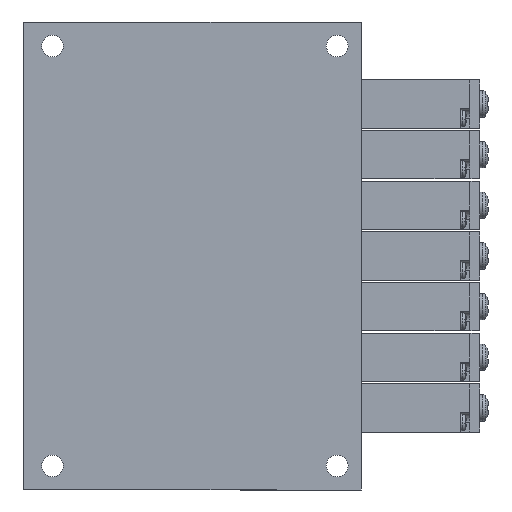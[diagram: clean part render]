
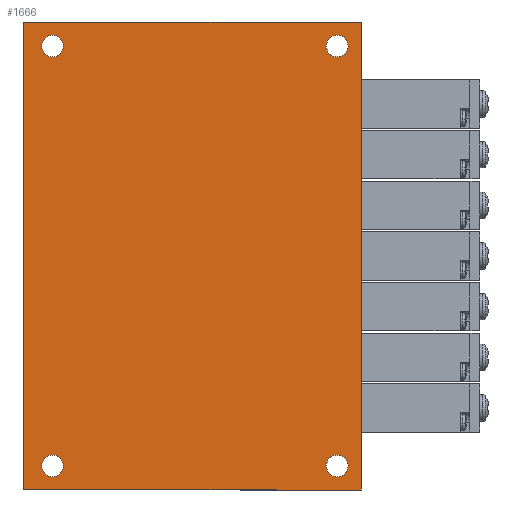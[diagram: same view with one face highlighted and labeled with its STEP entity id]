
A CAD part, front view. The second image highlights one B-rep face of the part: STEP entity #1666.
In plain terms, the highlighted planar face has unit normal (0, -1, 0) as drawn and (0, 0, 1) by its records, which use the part's own axes.
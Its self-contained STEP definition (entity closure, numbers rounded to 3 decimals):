
#1666=ADVANCED_FACE('',(#3573,#3574,#3575,#3576,#3577),#3578,.T.);
#3573=FACE_BOUND('',#5992,.T.);
#3574=FACE_BOUND('',#5993,.T.);
#3575=FACE_BOUND('',#5994,.T.);
#3576=FACE_BOUND('',#5995,.T.);
#3577=FACE_OUTER_BOUND('',#5996,.T.);
#3578=PLANE('',#5997);
#5992=EDGE_LOOP('',(#12302));
#5993=EDGE_LOOP('',(#12303));
#5994=EDGE_LOOP('',(#12304));
#5995=EDGE_LOOP('',(#12305));
#5996=EDGE_LOOP('',(#12306,#12307,#12308,#12309));
#5997=AXIS2_PLACEMENT_3D('',#12310,#12311,#12312);
#12302=ORIENTED_EDGE('',*,*,#17212,.F.);
#12303=ORIENTED_EDGE('',*,*,#17220,.T.);
#12304=ORIENTED_EDGE('',*,*,#17221,.F.);
#12305=ORIENTED_EDGE('',*,*,#17222,.T.);
#12306=ORIENTED_EDGE('',*,*,#17223,.T.);
#12307=ORIENTED_EDGE('',*,*,#17224,.T.);
#12308=ORIENTED_EDGE('',*,*,#17204,.T.);
#12309=ORIENTED_EDGE('',*,*,#17208,.T.);
#12310=CARTESIAN_POINT('',(-48.5,-35.0,25.889));
#12311=DIRECTION('',(0.0,0.0,1.0));
#12312=DIRECTION('',(1.0,0.0,0.0));
#17204=EDGE_CURVE('',#21054,#21052,#21055,.T.);
#17208=EDGE_CURVE('',#21052,#21059,#21061,.T.);
#17212=EDGE_CURVE('',#21068,#21068,#21069,.T.);
#17220=EDGE_CURVE('',#21084,#21084,#21085,.T.);
#17221=EDGE_CURVE('',#21086,#21086,#21087,.T.);
#17222=EDGE_CURVE('',#21088,#21088,#21089,.T.);
#17223=EDGE_CURVE('',#21059,#21090,#21091,.T.);
#17224=EDGE_CURVE('',#21090,#21054,#21092,.T.);
#21052=VERTEX_POINT('',#27504);
#21054=VERTEX_POINT('',#27507);
#21055=LINE('',#27508,#27509);
#21059=VERTEX_POINT('',#27515);
#21061=LINE('',#27518,#27519);
#21068=VERTEX_POINT('',#27526);
#21069=CIRCLE('',#27527,2.25);
#21084=VERTEX_POINT('',#27542);
#21085=CIRCLE('',#27543,2.25);
#21086=VERTEX_POINT('',#27544);
#21087=CIRCLE('',#27545,2.25);
#21088=VERTEX_POINT('',#27546);
#21089=CIRCLE('',#27547,2.25);
#21090=VERTEX_POINT('',#27548);
#21091=LINE('',#27549,#27550);
#21092=LINE('',#27551,#27552);
#27504=CARTESIAN_POINT('',(48.5,35.0,25.889));
#27507=CARTESIAN_POINT('',(48.5,-35.0,25.889));
#27508=CARTESIAN_POINT('',(48.5,-35.0,25.889));
#27509=VECTOR('',#32583,1.0);
#27515=CARTESIAN_POINT('',(-48.5,35.0,25.889));
#27518=CARTESIAN_POINT('',(48.5,35.0,25.889));
#27519=VECTOR('',#32587,1.0);
#27526=CARTESIAN_POINT('',(45.75,30.0,25.889));
#27527=AXIS2_PLACEMENT_3D('',#32597,#32598,#32599);
#27542=CARTESIAN_POINT('',(-45.75,30.0,25.889));
#27543=AXIS2_PLACEMENT_3D('',#32621,#32622,#32623);
#27544=CARTESIAN_POINT('',(45.75,-29.0,25.889));
#27545=AXIS2_PLACEMENT_3D('',#32624,#32625,#32626);
#27546=CARTESIAN_POINT('',(-45.75,-29.0,25.889));
#27547=AXIS2_PLACEMENT_3D('',#32627,#32628,#32629);
#27548=CARTESIAN_POINT('',(-48.5,-35.0,25.889));
#27549=CARTESIAN_POINT('',(-48.5,35.0,25.889));
#27550=VECTOR('',#32630,1.0);
#27551=CARTESIAN_POINT('',(-48.5,-35.0,25.889));
#27552=VECTOR('',#32631,1.0);
#32583=DIRECTION('',(0.0,1.0,0.0));
#32587=DIRECTION('',(-1.0,0.0,0.0));
#32597=CARTESIAN_POINT('',(43.5,30.0,25.889));
#32598=DIRECTION('',(0.0,0.0,1.0));
#32599=DIRECTION('',(1.0,0.0,0.0));
#32621=CARTESIAN_POINT('',(-43.5,30.0,25.889));
#32622=DIRECTION('',(0.0,0.0,-1.0));
#32623=DIRECTION('',(-1.0,0.0,0.0));
#32624=CARTESIAN_POINT('',(43.5,-29.0,25.889));
#32625=DIRECTION('',(0.0,0.0,1.0));
#32626=DIRECTION('',(1.0,0.0,0.0));
#32627=CARTESIAN_POINT('',(-43.5,-29.0,25.889));
#32628=DIRECTION('',(0.0,0.0,-1.0));
#32629=DIRECTION('',(-1.0,0.0,0.0));
#32630=DIRECTION('',(0.0,-1.0,0.0));
#32631=DIRECTION('',(1.0,0.0,0.0));
